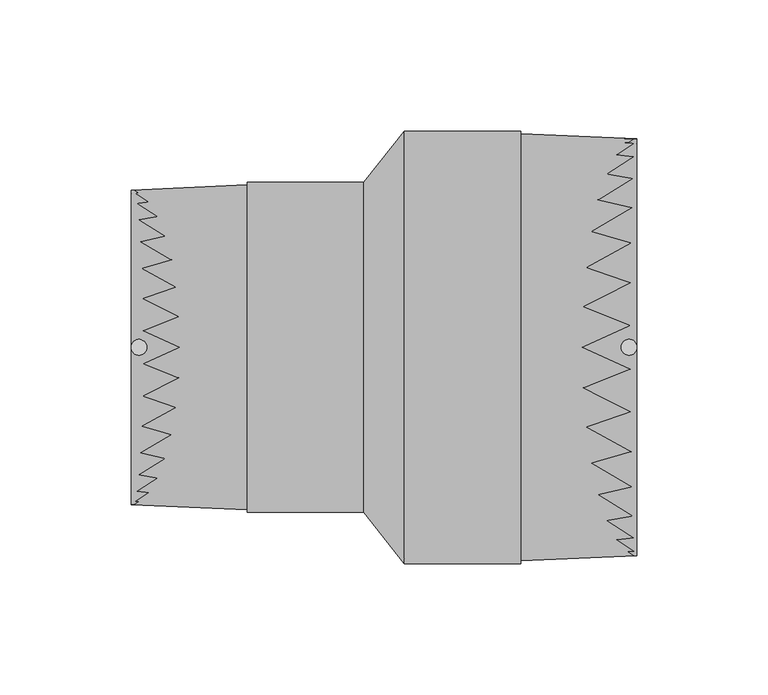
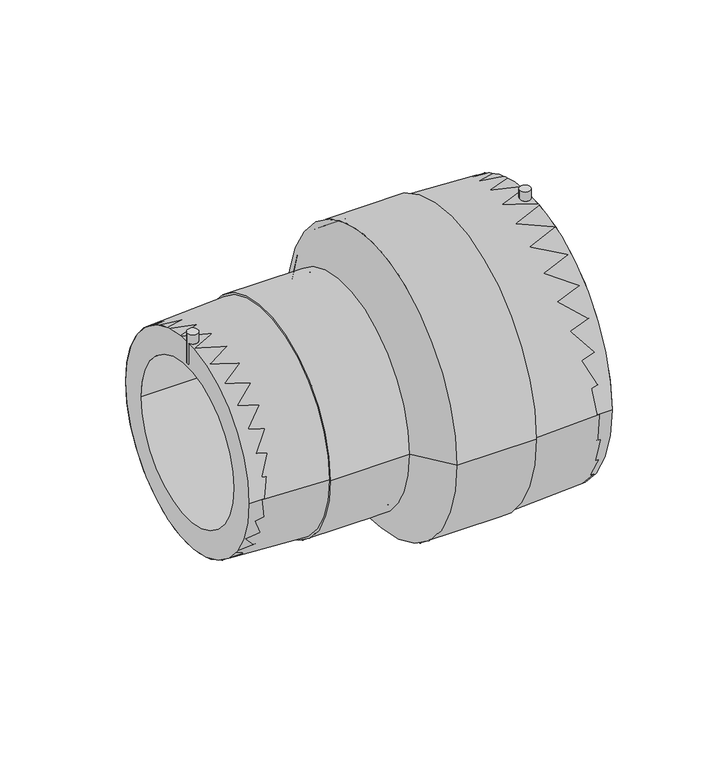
"""IFC4 building model written with IfcOpenShell, lengths in millimetres: pipe fitting geometry, EGB_VASEN_ PPR_Manguito reductor electrosoldable WXRD110 : Manguito reductor electrosoldable WXRD110."""

from ifc_helpers import new_model, si_unit, point, frame, frame_2d, origin, origin_2d, place, context, project, spatial, polyline, circle_curve, trimmed, segment, composite_curve, outline, extrude, source, transform, mapped, element, save
from ifc_brep_helpers import plane_surface, cylinder_surface, revolved_surface, advanced_brep


def pipe_fitting_4114f4b9(model_context):
    return source(origin(), model_context, "Body", "SolidModel", [
        extrude(outline(composite_curve([segment(trimmed(circle_curve(frame_2d((93.5, 0.0)), 3.0), [point((90.5, 0.0))], [point((96.5, 0.0))], False, "CARTESIAN"), True, "CONTINUOUS"), segment(trimmed(circle_curve(frame_2d((93.5, 0.0)), 3.0), [point((96.5, 0.0))], [point((90.5, 0.0))], False, "CARTESIAN"), True, "CONTINUOUS")], self_intersect=False)), frame((0.0, 0.0, 64.5), z_axis=(0.0, 0.0, 1.0), x_axis=(1.0, 0.0, 0.0)), (0.0, 0.0, 1.0), 20.0),
        extrude(outline(composite_curve([segment(trimmed(circle_curve(frame_2d((-93.5, 0.0)), 3.0), [point((-96.5, 0.0))], [point((-90.5, 0.0))], False, "CARTESIAN"), True, "CONTINUOUS"), segment(trimmed(circle_curve(frame_2d((-93.5, 0.0)), 3.0), [point((-90.5, 0.0))], [point((-96.5, 0.0))], False, "CARTESIAN"), True, "CONTINUOUS")], self_intersect=False)), frame((0.0, 0.0, 47.0), z_axis=(0.0, 0.0, 1.0), x_axis=(1.0, 0.0, 0.0)), (0.0, 0.0, 1.0), 18.0),
        extrude(outline(composite_curve([segment(trimmed(circle_curve(origin_2d(), 79.5), [point((-79.5, 0.0))], [point((79.5, 0.0))], False, "CARTESIAN"), True, "CONTINUOUS"), segment(trimmed(circle_curve(origin_2d(), 79.5), [point((79.5, 0.0))], [point((-79.5, 0.0))], False, "CARTESIAN"), True, "CONTINUOUS")], self_intersect=False), holes=[composite_curve([segment(trimmed(circle_curve(origin_2d(), 62.5), [point((-62.5, 0.0))], [point((62.5, 0.0))], True, "CARTESIAN"), True, "CONTINUOUS"), segment(trimmed(circle_curve(origin_2d(), 62.5), [point((62.5, 0.0))], [point((-62.5, 0.0))], True, "CARTESIAN"), True, "CONTINUOUS")], self_intersect=False)]), frame((7.72, 0.0, 0.0), z_axis=(1.0, 0.0, 0.0), x_axis=(0.0, 1.0, 0.0)), (0.0, 0.0, 1.0), 88.78),
        extrude(outline(composite_curve([segment(trimmed(circle_curve(origin_2d(), 60.0), [point((-60.0, 0.0))], [point((60.0, 0.0))], False, "CARTESIAN"), True, "CONTINUOUS"), segment(trimmed(circle_curve(origin_2d(), 60.0), [point((60.0, 0.0))], [point((-60.0, 0.0))], False, "CARTESIAN"), True, "CONTINUOUS")], self_intersect=False), holes=[composite_curve([segment(trimmed(circle_curve(origin_2d(), 45.0), [point((-45.0, 0.0))], [point((45.0, 0.0))], True, "CARTESIAN"), True, "CONTINUOUS"), segment(trimmed(circle_curve(origin_2d(), 45.0), [point((45.0, 0.0))], [point((-45.0, 0.0))], True, "CARTESIAN"), True, "CONTINUOUS")], self_intersect=False)]), frame((-96.5, 0.0, 0.0), z_axis=(1.0, 0.0, 0.0), x_axis=(0.0, 1.0, 0.0)), (0.0, 0.0, 1.0), 88.78),
        advanced_brep(
        [(7.72, -79.5, 0.0), (7.72, 79.5, 0.0), (-7.72, -60.0, 0.0), (-7.72, 60.0, 0.0)],
        [
            (0, 1, circle_curve(frame((7.72, 0.0, 0.0), z_axis=(1.0, 0.0, 0.0), x_axis=(0.0, -1.0, 0.0)), 79.5)),
            (1, 0, circle_curve(frame((7.72, 0.0, 0.0), z_axis=(1.0, 0.0, 0.0), x_axis=(0.0, 1.0, 0.0)), 79.5)),
            (2, 3, circle_curve(frame((-7.72, 0.0, 0.0), z_axis=(-1.0, 0.0, 0.0), x_axis=(0.0, 1.0, 0.0)), 60.0)),
            (3, 2, circle_curve(frame((-7.72, 0.0, 0.0), z_axis=(-1.0, 0.0, 0.0), x_axis=(0.0, -1.0, 0.0)), 60.0)),
            (3, 1),
            (0, 2),
        ],
        [
            plane_surface(frame((7.72, 0.0, 0.0), z_axis=(1.0, 0.0, 0.0), x_axis=(0.0, 0.0, -1.0))),
            plane_surface(frame((-7.72, 0.0, 0.0), z_axis=(-1.0, 0.0, 0.0), x_axis=(0.0, 0.0, -1.0))),
            revolved_surface(polyline([(-7.719999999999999, 59.99999999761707, 0.0), (7.719999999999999, 79.5, 0.0)]), (-55.2276923, 0.0, 0.0), (1.0, 0.0, 0.0)),
            revolved_surface(polyline([(-7.719999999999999, -59.99999999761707, 0.0), (7.719999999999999, -79.5, 0.0)]), (-55.2276923, 0.0, 0.0), (1.0, 0.0, 0.0)),
        ],
        [
            (0, [[1, 2]]),
            (1, [[3, 4]]),
            (2, [[-4, 5, -1, 6]]),
            (3, [[-3, -6, -2, -5]]),
        ],
    ),
        advanced_brep(
        [(7.72, -79.5, 0.0), (7.72, 79.5, 0.0), (-7.72, 60.0, 0.0), (-7.72, -60.0, 0.0), (96.5, -79.5, 0.0), (96.5, 79.5, 0.0), (52.11, -81.5, 0.0), (52.11, 81.5, 0.0), (52.11, -82.5, 0.0), (52.11, 82.5, 0.0), (7.72, -82.5, 0.0), (7.72, 82.5, 0.0), (-7.72, -63.0, 0.0), (-7.72, 63.0, 0.0), (-52.11, -63.0, 0.0), (-52.11, 63.0, 0.0), (-52.11, -62.0, 0.0), (-52.11, 62.0, 0.0), (-96.5, -60.0, 0.0), (-96.5, 60.0, 0.0)],
        [
            (0, 1, circle_curve(frame((7.72, 0.0, 0.0), z_axis=(1.0, 0.0, 0.0), x_axis=(0.0, 1.0, 0.0)), 79.5)),
            (1, 2),
            (2, 3, circle_curve(frame((-7.72, 0.0, 0.0), z_axis=(-1.0, 0.0, 0.0), x_axis=(0.0, 1.0, 0.0)), 60.0)),
            (3, 0),
            (1, 0, circle_curve(frame((7.72, 0.0, 0.0), z_axis=(1.0, 0.0, 0.0), x_axis=(0.0, 1.0, 0.0)), 79.5)),
            (3, 2, circle_curve(frame((-7.72, 0.0, 0.0), z_axis=(-1.0, 0.0, 0.0), x_axis=(0.0, 1.0, 0.0)), 60.0)),
            (4, 5, circle_curve(frame((96.5, 0.0, 0.0), z_axis=(1.0, 0.0, 0.0), x_axis=(0.0, 1.0, 0.0)), 79.5)),
            (5, 1),
            (0, 4),
            (5, 4, circle_curve(frame((96.5, 0.0, 0.0), z_axis=(1.0, 0.0, 0.0), x_axis=(0.0, 1.0, 0.0)), 79.5)),
            (6, 7, circle_curve(frame((52.11, 0.0, 0.0), z_axis=(1.0, 0.0, 0.0), x_axis=(0.0, 1.0, 0.0)), 81.5)),
            (7, 5),
            (4, 6),
            (7, 6, circle_curve(frame((52.11, 0.0, 0.0), z_axis=(1.0, 0.0, 0.0), x_axis=(0.0, 1.0, 0.0)), 81.5)),
            (8, 9, circle_curve(frame((52.11, 0.0, 0.0), z_axis=(1.0, 0.0, 0.0), x_axis=(0.0, 1.0, 0.0)), 82.5)),
            (9, 7),
            (6, 8),
            (9, 8, circle_curve(frame((52.11, 0.0, 0.0), z_axis=(1.0, 0.0, 0.0), x_axis=(0.0, 1.0, 0.0)), 82.5)),
            (10, 11, circle_curve(frame((7.72, 0.0, 0.0), z_axis=(1.0, 0.0, 0.0), x_axis=(0.0, 1.0, 0.0)), 82.5)),
            (11, 9),
            (8, 10),
            (11, 10, circle_curve(frame((7.72, 0.0, 0.0), z_axis=(1.0, 0.0, 0.0), x_axis=(0.0, 1.0, 0.0)), 82.5)),
            (12, 13, circle_curve(frame((-7.72, 0.0, 0.0), z_axis=(1.0, 0.0, 0.0), x_axis=(0.0, 1.0, 0.0)), 63.0)),
            (13, 11),
            (10, 12),
            (13, 12, circle_curve(frame((-7.72, 0.0, 0.0), z_axis=(1.0, 0.0, 0.0), x_axis=(0.0, 1.0, 0.0)), 63.0)),
            (14, 15, circle_curve(frame((-52.11, 0.0, 0.0), z_axis=(1.0, 0.0, 0.0), x_axis=(0.0, 1.0, 0.0)), 63.0)),
            (15, 13),
            (12, 14),
            (15, 14, circle_curve(frame((-52.11, 0.0, 0.0), z_axis=(1.0, 0.0, 0.0), x_axis=(0.0, 1.0, 0.0)), 63.0)),
            (16, 17, circle_curve(frame((-52.11, 0.0, 0.0), z_axis=(1.0, 0.0, 0.0), x_axis=(0.0, 1.0, 0.0)), 62.0)),
            (17, 15),
            (14, 16),
            (17, 16, circle_curve(frame((-52.11, 0.0, 0.0), z_axis=(1.0, 0.0, 0.0), x_axis=(0.0, 1.0, 0.0)), 62.0)),
            (18, 19, circle_curve(frame((-96.5, 0.0, 0.0), z_axis=(1.0, 0.0, 0.0), x_axis=(0.0, 1.0, 0.0)), 60.0)),
            (19, 17),
            (16, 18),
            (19, 18, circle_curve(frame((-96.5, 0.0, 0.0), z_axis=(1.0, 0.0, 0.0), x_axis=(0.0, 1.0, 0.0)), 60.0)),
            (2, 19),
            (18, 3),
        ],
        [
            revolved_surface(polyline([(-7.72, 60.0, 0.0), (7.72, 79.5, 0.0)]), (-131.5, 0.0, 0.0), (-1.0, 0.0, 0.0)),
            revolved_surface(polyline([(7.719999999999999, 79.5, 0.0), (96.5, 79.5, 0.0)]), (-131.5, 0.0, 0.0), (-1.0, 0.0, 0.0)),
            revolved_surface(polyline([(96.5, 79.5, 0.0), (52.11, 81.5, 0.0)]), (-131.5, 0.0, 0.0), (-1.0, 0.0, 0.0)),
            plane_surface(frame((52.11, 0.0, 0.0), z_axis=(1.0, 0.0, 0.0), x_axis=(0.0, 1.0, 0.0))),
            cylinder_surface(frame((-131.5, 0.0, 0.0), z_axis=(-1.0, 0.0, 0.0), x_axis=(0.0, 1.0, 0.0)), 82.5),
            revolved_surface(polyline([(7.72, 82.5, 0.0), (-7.72, 63.0, 0.0)]), (-131.5, 0.0, 0.0), (-1.0, 0.0, 0.0)),
            cylinder_surface(frame((-131.5, 0.0, 0.0), z_axis=(-1.0, 0.0, 0.0), x_axis=(0.0, 1.0, 0.0)), 63.0),
            plane_surface(frame((-52.11, 0.0, 0.0), z_axis=(-1.0, 0.0, 0.0), x_axis=(0.0, 1.0, 0.0))),
            revolved_surface(polyline([(-52.11, 62.0, 0.0), (-96.5, 60.0, 0.0)]), (-131.5, 0.0, 0.0), (-1.0, 0.0, 0.0)),
            revolved_surface(polyline([(-96.5, 60.0, 0.0), (-7.719999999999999, 60.0, 0.0)]), (-131.5, 0.0, 0.0), (-1.0, 0.0, 0.0)),
        ],
        [
            (0, [[1, 2, 3, 4]]),
            (0, [[5, -4, 6, -2]]),
            (1, [[7, 8, -1, 9]]),
            (1, [[10, -9, -5, -8]]),
            (2, [[11, 12, -7, 13]]),
            (2, [[14, -13, -10, -12]]),
            (3, [[15, 16, -11, 17]]),
            (3, [[18, -17, -14, -16]]),
            (4, [[19, 20, -15, 21]]),
            (4, [[22, -21, -18, -20]]),
            (5, [[23, 24, -19, 25]]),
            (5, [[26, -25, -22, -24]]),
            (6, [[27, 28, -23, 29]]),
            (6, [[30, -29, -26, -28]]),
            (7, [[31, 32, -27, 33]]),
            (7, [[34, -33, -30, -32]]),
            (8, [[35, 36, -31, 37]]),
            (8, [[38, -37, -34, -36]]),
            (9, [[-3, 39, -35, 40]]),
            (9, [[-6, -40, -38, -39]]),
        ],
    ),
    ])


if __name__ == "__main__":
    model = new_model("IFC4")
    model_context = context("Model", 3, world=origin())
    ifc_project = project(units=[si_unit("LENGTHUNIT", "METRE", prefix="MILLI")], contexts=[model_context])
    site = spatial("IfcSite", under=ifc_project)
    building = spatial("IfcBuilding", under=site)
    placement = place(None, origin())
    pipe_fitting_shape = pipe_fitting_4114f4b9(model_context)
    element("IfcPipeFitting", 1, ObjectType="EGB_VASEN_ PPR_Manguito reductor electrosoldable WXRD110 : Manguito reductor electrosoldable WXRD110", at=placement, inside=building, context=model_context, shape_type="MappedRepresentation", body=[
        mapped(pipe_fitting_shape, transform((0.0, 0.0, 0.0), x_axis=(1.0, 0.0, 0.0), y_axis=(0.0, 1.0, 0.0), z_axis=(0.0, 0.0, 1.0))),
    ])
    save(model, "model.ifc")
